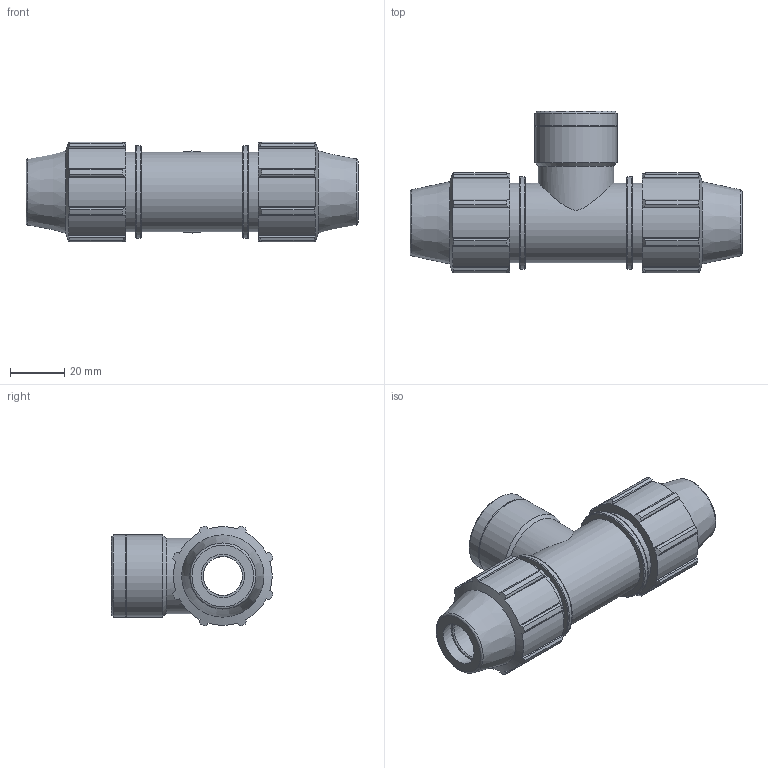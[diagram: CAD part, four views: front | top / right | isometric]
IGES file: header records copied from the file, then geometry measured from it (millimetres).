
Global section: file name: 071406016007__0714060160070A.ipt; native system: Autodesk Inventor 2015; preprocessor: unknown; author: KIM; date: 20170606.172203; units: millimetre
Bounding box: 122 x 59.35 x 36.7 mm (x, y, z)
Volume: 80970.2 mm3; surface area: 26291.3 mm2
Topology: 1 solids, 1 shells, 157 faces, 443 edges, 299 vertices
Faces by surface type: plane 79, cylinder 40, cone 23, revolution 15
Full cylindrical faces by diameter (mm): 27.735 x1, 29.25 x3, 30.146 x2, 33.93 x2
